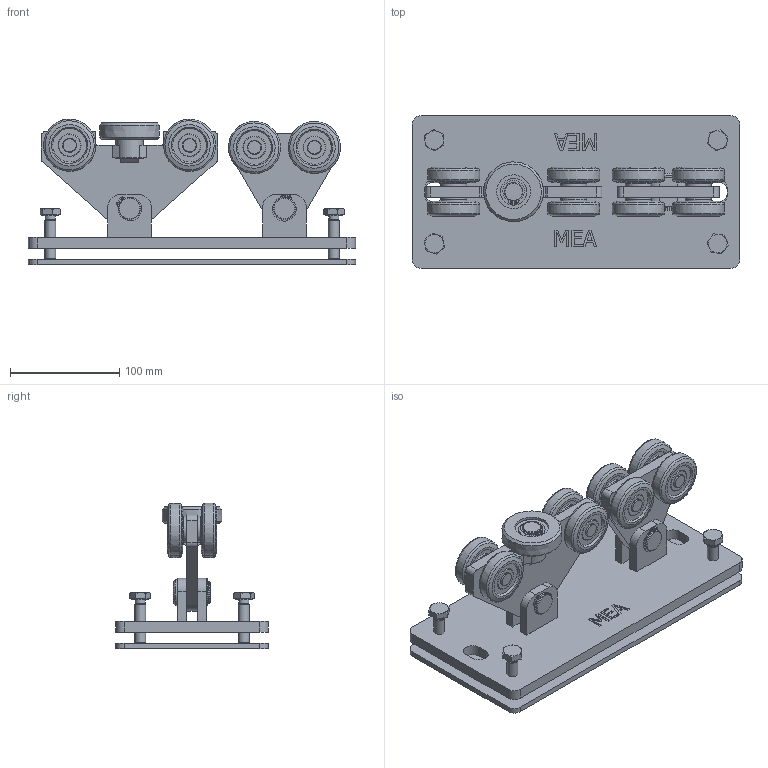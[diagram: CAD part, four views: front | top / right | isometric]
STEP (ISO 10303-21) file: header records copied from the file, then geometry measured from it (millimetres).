
FILE_DESCRIPTION(/* description */ ('Laufrolle FRT Nr.3'),/* implementation_level */ '2;1');
FILE_NAME(/* name */ 'Q:\sge-ma\Produktmanagement-STB\STB\Workspace\stp\010337681.stp',/* time_stamp */ '2016-07-20T13:35:09+02:00',/* author */ ('avschreier'),/* organization */ (''),/* preprocessor_version */ 'ST-DEVELOPER v16.1',/* originating_system */ 'Autodesk Inventor 2016',/* authorisation */ '');
FILE_SCHEMA (('CONFIG_CONTROL_DESIGN'));
Length unit declared in the file: millimetre
Products named in the file (18): 010337681_Schweißnähte; 337000357; 000302116; 000302114; 000302115; 000302246; 000302117; 000302245; 337000283; DIN_625-6203_ZZ_en; 000302016; 000304012; 000303237; DIN_EN_ISO_7090-13_en; DIN_471-19x1,2_en; DIN_471-17x1_en; DIN_EN_ISO_4017-M10x40_en; 010337681
Assembly tree (50 placements, depth 3):
  010337681
    010337681_Schweißnähte
    337000357
    000302116
    000302114
    000302115
    000302246
    000302117  x4
    000302245  x2
    000302016
      337000283
      DIN_625-6203_ZZ_en
    000304012  x4
    000303237  x8
    DIN_EN_ISO_7090-13_en  x16
    DIN_471-19x1,2_en  x2
    DIN_471-17x1_en
    DIN_EN_ISO_4017-M10x40_en  x4
Bounding box: 300 x 140 x 133.37 mm (x, y, z)
Volume: 1058565.9 mm3; surface area: 343945.2 mm2
Topology: 58 solids, 59 shells, 736 faces, 1617 edges, 1044 vertices
Faces by surface type: plane 416, cylinder 155, cone 115, torus 34, bspline 9, sphere 7
Full cylindrical faces by diameter (mm): 1.7 x2, 2 x4, 8.376 x4, 9.188 x4, 10 x4, 12 x12, 12.1 x4, 13 x16, 14 x4, 15.4 x4, 16 x1, 16.9 x2, 17 x1, 18 x2, 19 x2, 20 x4, 20.2 x6, 24 x18, 24.36 x4, 25 x1, 31 x1, 32.64 x4, 40 x2
Entity records: 12759 total; most frequent: CARTESIAN_POINT 2821, DIRECTION 2004, ORIENTED_EDGE 1792, EDGE_CURVE 896, AXIS2_PLACEMENT_3D 707, VERTEX_POINT 630, LINE 590, VECTOR 590
